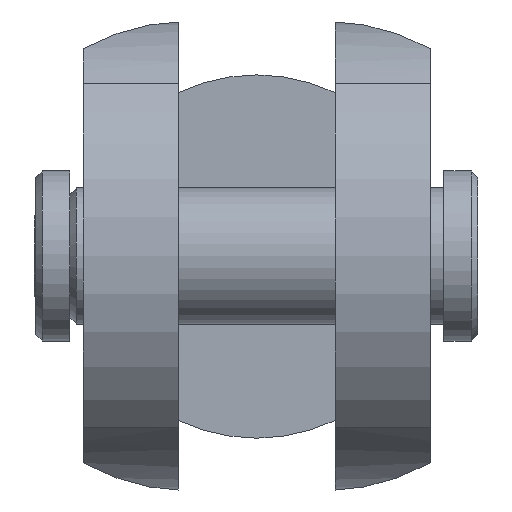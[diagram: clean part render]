
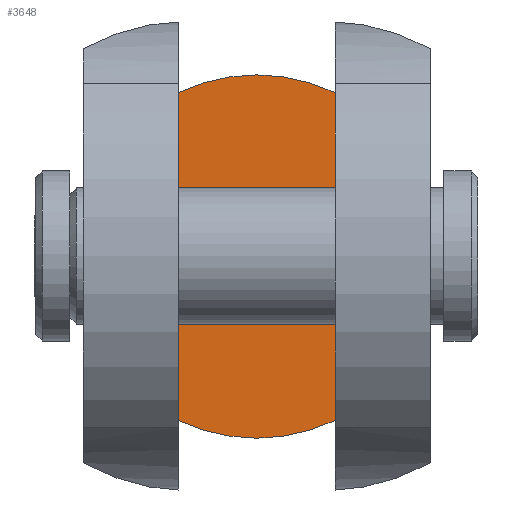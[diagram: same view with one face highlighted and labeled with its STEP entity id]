
A CAD part, top view. The second image highlights one B-rep face of the part: STEP entity #3648.
In plain terms, the highlighted planar face has unit normal (0, 0, 1).
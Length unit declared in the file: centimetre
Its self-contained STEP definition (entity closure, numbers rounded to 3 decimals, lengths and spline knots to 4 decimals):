
#173=PLANE('',#3853);
#586=LINE('',#6018,#948);
#587=LINE('',#6020,#949);
#948=VECTOR('',#4587,4.8172);
#949=VECTOR('',#4590,4.8172);
#1193=FACE_OUTER_BOUND('',#1418,.T.);
#1418=EDGE_LOOP('',(#3176,#3177,#3178,#3179));
#1483=CIRCLE('',#3706,2.6691);
#1484=CIRCLE('',#3707,2.6691);
#1547=VERTEX_POINT('',#4890);
#1548=VERTEX_POINT('',#4894);
#1553=VERTEX_POINT('',#4930);
#1554=VERTEX_POINT('',#4934);
#1878=EDGE_CURVE('',#1547,#1548,#1483,.T.);
#1884=EDGE_CURVE('',#1553,#1554,#1484,.T.);
#2279=EDGE_CURVE('',#1547,#1554,#586,.T.);
#2280=EDGE_CURVE('',#1548,#1553,#587,.T.);
#3176=ORIENTED_EDGE('',*,*,#1878,.F.);
#3177=ORIENTED_EDGE('',*,*,#2279,.T.);
#3178=ORIENTED_EDGE('',*,*,#1884,.F.);
#3179=ORIENTED_EDGE('',*,*,#2280,.F.);
#3648=ADVANCED_FACE('',(#1193),#173,.F.);
#3706=AXIS2_PLACEMENT_3D('',#4895,#3961,#3962);
#3707=AXIS2_PLACEMENT_3D('',#4935,#3963,#3964);
#3853=AXIS2_PLACEMENT_3D('',#6021,#4591,#4592);
#3961=DIRECTION('center_axis',(0.,0.,
-1.));
#3962=DIRECTION('ref_axis',(0.,-1.,0.));
#3963=DIRECTION('center_axis',(0.,0.,
-1.));
#3964=DIRECTION('ref_axis',(0.,-1.,0.));
#4587=DIRECTION('',(0.,1.,0.));
#4590=DIRECTION('',(0.,1.,0.));
#4591=DIRECTION('center_axis',(0.,0.,
-1.));
#4592=DIRECTION('ref_axis',(-1.,0.,0.));
#4890=CARTESIAN_POINT('',(1.15,-2.4086,-4.5));
#4894=CARTESIAN_POINT('',(-1.15,-2.4086,-4.5));
#4895=CARTESIAN_POINT('Origin',(0.,0.,
-4.5));
#4930=CARTESIAN_POINT('',(-1.15,2.4086,-4.5));
#4934=CARTESIAN_POINT('',(1.15,2.4086,-4.5));
#4935=CARTESIAN_POINT('Origin',(0.,0.,
-4.5));
#6018=CARTESIAN_POINT('',(1.15,0.,-4.5));
#6020=CARTESIAN_POINT('',(-1.15,0.,-4.5));
#6021=CARTESIAN_POINT('Origin',(1.15,0.,-4.5));
